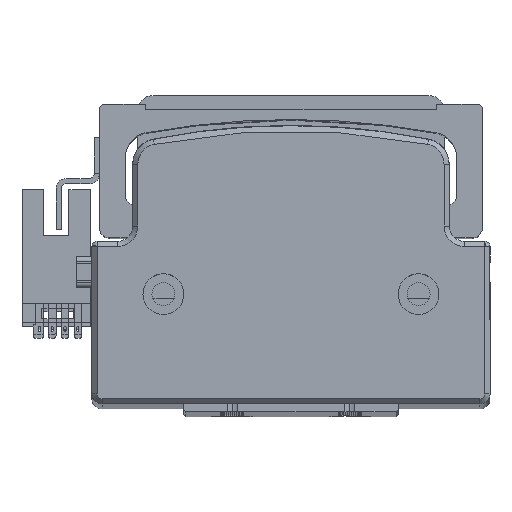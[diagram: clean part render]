
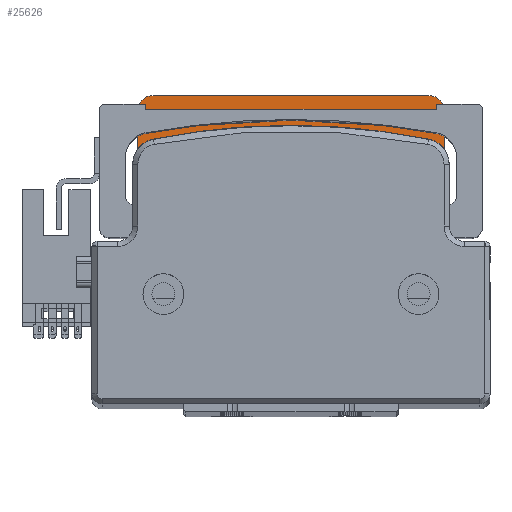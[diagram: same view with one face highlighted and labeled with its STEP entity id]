
A CAD part, top view. The second image highlights one B-rep face of the part: STEP entity #25626.
In plain terms, the highlighted planar face has unit normal (0, 0, 1) as drawn and (0, 0, -1) by its records, which use the part's own axes.
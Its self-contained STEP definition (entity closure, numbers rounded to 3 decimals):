
#596 = VERTEX_POINT ( 'NONE', #20725 ) ;
#829 = ORIENTED_EDGE ( 'NONE', *, *, #42750, .T. ) ;
#1405 = DIRECTION ( 'NONE',  ( 0., 0., -1. ) ) ;
#1456 = DIRECTION ( 'NONE',  ( -1., 0., 0. ) ) ;
#1889 = CARTESIAN_POINT ( 'NONE',  ( -39.764, 17., 44. ) ) ;
#2155 = ORIENTED_EDGE ( 'NONE', *, *, #32250, .F. ) ;
#2406 = DIRECTION ( 'NONE',  ( 1., 0., 0. ) ) ;
#2588 = VECTOR ( 'NONE', #20427, 1000. ) ;
#2624 = VERTEX_POINT ( 'NONE', #40907 ) ;
#3138 = DIRECTION ( 'NONE',  ( 1., 0., 0. ) ) ;
#3954 = ORIENTED_EDGE ( 'NONE', *, *, #25872, .F. ) ;
#4398 = ORIENTED_EDGE ( 'NONE', *, *, #24900, .F. ) ;
#4415 = CARTESIAN_POINT ( 'NONE',  ( 27., 30., 44. ) ) ;
#4773 = ORIENTED_EDGE ( 'NONE', *, *, #41186, .T. ) ;
#4797 = AXIS2_PLACEMENT_3D ( 'NONE', #46805, #25105, #3138 ) ;
#5234 = EDGE_CURVE ( 'NONE', #12023, #16083, #20699, .T. ) ;
#5993 = ORIENTED_EDGE ( 'NONE', *, *, #19202, .F. ) ;
#6796 = EDGE_CURVE ( 'NONE', #19652, #38025, #40229, .T. ) ;
#6991 = ORIENTED_EDGE ( 'NONE', *, *, #5234, .F. ) ;
#7095 = CARTESIAN_POINT ( 'NONE',  ( -27., 30., 44. ) ) ;
#7279 = DIRECTION ( 'NONE',  ( 0., -1., 0. ) ) ;
#7674 = DIRECTION ( 'NONE',  ( 0., 0., -1. ) ) ;
#8457 = FACE_OUTER_BOUND ( 'NONE', #45791, .T. ) ;
#8803 = PLANE ( 'NONE',  #23009 ) ;
#9214 = DIRECTION ( 'NONE',  ( 1., 0., 0. ) ) ;
#9477 = CIRCLE ( 'NONE', #32400, 3. ) ;
#9485 = CARTESIAN_POINT ( 'NONE',  ( -19., 30., 44. ) ) ;
#9587 = FACE_BOUND ( 'NONE', #46568, .T. ) ;
#9613 = ORIENTED_EDGE ( 'NONE', *, *, #43724, .T. ) ;
#9643 = VERTEX_POINT ( 'NONE', #35279 ) ;
#10472 = AXIS2_PLACEMENT_3D ( 'NONE', #33095, #11157, #36704 ) ;
#10633 = VERTEX_POINT ( 'NONE', #14506 ) ;
#10770 = CARTESIAN_POINT ( 'NONE',  ( -30., -30., 44. ) ) ;
#11021 = CARTESIAN_POINT ( 'NONE',  ( 27., 17., 44. ) ) ;
#11157 = DIRECTION ( 'NONE',  ( 0., 0., -1. ) ) ;
#11189 = CIRCLE ( 'NONE', #13143, 3. ) ;
#11269 = VECTOR ( 'NONE', #7279, 1000. ) ;
#11341 = ORIENTED_EDGE ( 'NONE', *, *, #35352, .T. ) ;
#12023 = VERTEX_POINT ( 'NONE', #34185 ) ;
#12072 = VECTOR ( 'NONE', #46341, 1000. ) ;
#12469 = LINE ( 'NONE', #10770, #11269 ) ;
#13143 = AXIS2_PLACEMENT_3D ( 'NONE', #45132, #23443, #1456 ) ;
#13255 = LINE ( 'NONE', #42712, #12072 ) ;
#13658 = ORIENTED_EDGE ( 'NONE', *, *, #33787, .T. ) ;
#14506 = CARTESIAN_POINT ( 'NONE',  ( 30., 14., 44. ) ) ;
#14819 = EDGE_LOOP ( 'NONE', ( #6991, #4398 ) ) ;
#14870 = ORIENTED_EDGE ( 'NONE', *, *, #20788, .F. ) ;
#15491 = ORIENTED_EDGE ( 'NONE', *, *, #16885, .F. ) ;
#15522 = DIRECTION ( 'NONE',  ( 0., 0., 1. ) ) ;
#15691 = ORIENTED_EDGE ( 'NONE', *, *, #33738, .F. ) ;
#16083 = VERTEX_POINT ( 'NONE', #28103 ) ;
#16128 = LINE ( 'NONE', #39366, #25827 ) ;
#16230 = DIRECTION ( 'NONE',  ( 0., 0., -1. ) ) ;
#16677 = VERTEX_POINT ( 'NONE', #7095 ) ;
#16885 = EDGE_CURVE ( 'NONE', #596, #38025, #27373, .T. ) ;
#17741 = DIRECTION ( 'NONE',  ( 1., 0., 0. ) ) ;
#18244 = DIRECTION ( 'NONE',  ( 0., 0., 1. ) ) ;
#19202 = EDGE_CURVE ( 'NONE', #41629, #9643, #12469, .T. ) ;
#19620 = AXIS2_PLACEMENT_3D ( 'NONE', #29532, #7674, #33231 ) ;
#19652 = VERTEX_POINT ( 'NONE', #46622 ) ;
#19862 = CIRCLE ( 'NONE', #19620, 1.65 ) ;
#19976 = CARTESIAN_POINT ( 'NONE',  ( -27., 27., 44. ) ) ;
#20427 = DIRECTION ( 'NONE',  ( 0., 1., 0. ) ) ;
#20557 = DIRECTION ( 'NONE',  ( 0., 0., -1. ) ) ;
#20687 = CARTESIAN_POINT ( 'NONE',  ( -39.764, 17., 44. ) ) ;
#20699 = CIRCLE ( 'NONE', #10472, 1.65 ) ;
#20725 = CARTESIAN_POINT ( 'NONE',  ( -27., 17., 44. ) ) ;
#20788 = EDGE_CURVE ( 'NONE', #2624, #38717, #39040, .T. ) ;
#21031 = CARTESIAN_POINT ( 'NONE',  ( 19., 30., 44. ) ) ;
#22745 = AXIS2_PLACEMENT_3D ( 'NONE', #37296, #15522, #40931 ) ;
#23009 = AXIS2_PLACEMENT_3D ( 'NONE', #34351, #20557, #45945 ) ;
#23071 = CARTESIAN_POINT ( 'NONE',  ( 23.099, 24.749, 44. ) ) ;
#23395 = CARTESIAN_POINT ( 'NONE',  ( -24.749, 24.749, 44. ) ) ;
#23443 = DIRECTION ( 'NONE',  ( 0., 0., 1. ) ) ;
#23683 = DIRECTION ( 'NONE',  ( 1., 0., 0. ) ) ;
#24131 = VERTEX_POINT ( 'NONE', #4415 ) ;
#24570 = VERTEX_POINT ( 'NONE', #42923 ) ;
#24587 = CARTESIAN_POINT ( 'NONE',  ( 19., 0., 44. ) ) ;
#24838 = VERTEX_POINT ( 'NONE', #23071 ) ;
#24900 = EDGE_CURVE ( 'NONE', #16083, #12023, #33044, .T. ) ;
#25105 = DIRECTION ( 'NONE',  ( 0., 0., -1. ) ) ;
#25436 = CIRCLE ( 'NONE', #27725, 3. ) ;
#25593 = EDGE_CURVE ( 'NONE', #10633, #38717, #11189, .T. ) ;
#25619 = ORIENTED_EDGE ( 'NONE', *, *, #6796, .T. ) ;
#25626 = ADVANCED_FACE ( 'NONE', ( #8457, #36399, #9587 ), #8803, .T. ) ;
#25827 = VECTOR ( 'NONE', #17741, 1000. ) ;
#25848 = ORIENTED_EDGE ( 'NONE', *, *, #30563, .T. ) ;
#25872 = EDGE_CURVE ( 'NONE', #24570, #24838, #19862, .T. ) ;
#27007 = DIRECTION ( 'NONE',  ( 1., 0., 0. ) ) ;
#27373 = LINE ( 'NONE', #1889, #32473 ) ;
#27725 = AXIS2_PLACEMENT_3D ( 'NONE', #39993, #18244, #43642 ) ;
#28103 = CARTESIAN_POINT ( 'NONE',  ( -26.399, 24.749, 44. ) ) ;
#28712 = CIRCLE ( 'NONE', #4797, 1.65 ) ;
#28737 = CARTESIAN_POINT ( 'NONE',  ( 30., 27., 44. ) ) ;
#29532 = CARTESIAN_POINT ( 'NONE',  ( 24.749, 24.749, 44. ) ) ;
#29883 = CIRCLE ( 'NONE', #22745, 19. ) ;
#30563 = EDGE_CURVE ( 'NONE', #2624, #34974, #46056, .T. ) ;
#31303 = VERTEX_POINT ( 'NONE', #28737 ) ;
#31994 = DIRECTION ( 'NONE',  ( 0., -1., 0. ) ) ;
#32250 = EDGE_CURVE ( 'NONE', #24838, #24570, #28712, .T. ) ;
#32400 = AXIS2_PLACEMENT_3D ( 'NONE', #19976, #45384, #23683 ) ;
#32473 = VECTOR ( 'NONE', #9214, 1000. ) ;
#32826 = VECTOR ( 'NONE', #2406, 1000. ) ;
#32973 = CIRCLE ( 'NONE', #43068, 3. ) ;
#33044 = CIRCLE ( 'NONE', #33885, 1.65 ) ;
#33095 = CARTESIAN_POINT ( 'NONE',  ( -24.749, 24.749, 44. ) ) ;
#33231 = DIRECTION ( 'NONE',  ( 1., 0., 0. ) ) ;
#33738 = EDGE_CURVE ( 'NONE', #10633, #31303, #13255, .T. ) ;
#33787 = EDGE_CURVE ( 'NONE', #16677, #24131, #16128, .T. ) ;
#33885 = AXIS2_PLACEMENT_3D ( 'NONE', #23395, #1405, #27007 ) ;
#34185 = CARTESIAN_POINT ( 'NONE',  ( -23.099, 24.749, 44. ) ) ;
#34351 = CARTESIAN_POINT ( 'NONE',  ( 19., -30., 44. ) ) ;
#34974 = VERTEX_POINT ( 'NONE', #24587 ) ;
#35279 = CARTESIAN_POINT ( 'NONE',  ( -30., 14., 44. ) ) ;
#35352 = EDGE_CURVE ( 'NONE', #24131, #31303, #32973, .T. ) ;
#36377 = VECTOR ( 'NONE', #31994, 1000. ) ;
#36399 = FACE_BOUND ( 'NONE', #14819, .T. ) ;
#36704 = DIRECTION ( 'NONE',  ( 1., 0., 0. ) ) ;
#36822 = CARTESIAN_POINT ( 'NONE',  ( -19., 17., 44. ) ) ;
#37296 = CARTESIAN_POINT ( 'NONE',  ( 0., 0., 44. ) ) ;
#37992 = CARTESIAN_POINT ( 'NONE',  ( 27., 27., 44. ) ) ;
#38025 = VERTEX_POINT ( 'NONE', #36822 ) ;
#38717 = VERTEX_POINT ( 'NONE', #11021 ) ;
#39040 = LINE ( 'NONE', #20687, #32826 ) ;
#39366 = CARTESIAN_POINT ( 'NONE',  ( 19., 30., 44. ) ) ;
#39993 = CARTESIAN_POINT ( 'NONE',  ( -27., 14., 44. ) ) ;
#40229 = LINE ( 'NONE', #9485, #2588 ) ;
#40819 = ORIENTED_EDGE ( 'NONE', *, *, #25593, .T. ) ;
#40907 = CARTESIAN_POINT ( 'NONE',  ( 19., 17., 44. ) ) ;
#40931 = DIRECTION ( 'NONE',  ( -1., 0., 0. ) ) ;
#41186 = EDGE_CURVE ( 'NONE', #41629, #16677, #9477, .T. ) ;
#41629 = VERTEX_POINT ( 'NONE', #44999 ) ;
#41669 = DIRECTION ( 'NONE',  ( 1., 0., 0. ) ) ;
#42712 = CARTESIAN_POINT ( 'NONE',  ( 30., -30., 44. ) ) ;
#42750 = EDGE_CURVE ( 'NONE', #34974, #19652, #29883, .T. ) ;
#42923 = CARTESIAN_POINT ( 'NONE',  ( 26.399, 24.749, 44. ) ) ;
#43068 = AXIS2_PLACEMENT_3D ( 'NONE', #37992, #16230, #41669 ) ;
#43642 = DIRECTION ( 'NONE',  ( -1., 0., 0. ) ) ;
#43724 = EDGE_CURVE ( 'NONE', #596, #9643, #25436, .T. ) ;
#44999 = CARTESIAN_POINT ( 'NONE',  ( -30., 27., 44. ) ) ;
#45132 = CARTESIAN_POINT ( 'NONE',  ( 27., 14., 44. ) ) ;
#45384 = DIRECTION ( 'NONE',  ( 0., 0., -1. ) ) ;
#45791 = EDGE_LOOP ( 'NONE', ( #25619, #15491, #9613, #5993, #4773, #13658, #11341, #15691, #40819, #14870, #25848, #829 ) ) ;
#45945 = DIRECTION ( 'NONE',  ( -1., 0., 0. ) ) ;
#46056 = LINE ( 'NONE', #21031, #36377 ) ;
#46341 = DIRECTION ( 'NONE',  ( 0., 1., 0. ) ) ;
#46568 = EDGE_LOOP ( 'NONE', ( #3954, #2155 ) ) ;
#46622 = CARTESIAN_POINT ( 'NONE',  ( -19., 0., 44. ) ) ;
#46805 = CARTESIAN_POINT ( 'NONE',  ( 24.749, 24.749, 44. ) ) ;
